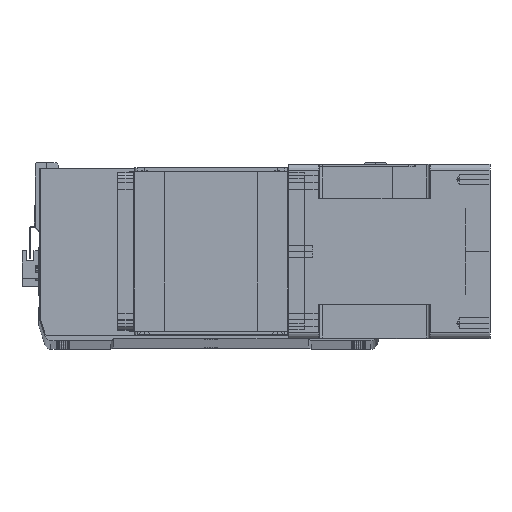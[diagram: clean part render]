
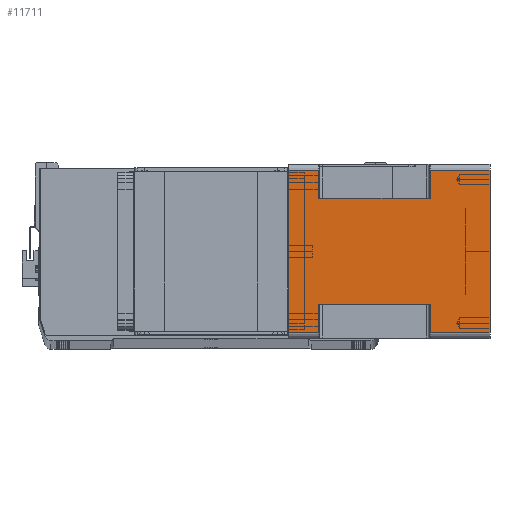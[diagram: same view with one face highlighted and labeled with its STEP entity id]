
A CAD part, top view. The second image highlights one B-rep face of the part: STEP entity #11711.
In plain terms, the highlighted planar face has unit normal (0, 0, 1) as drawn and (1, 0, 0) by its records, which use the part's own axes.
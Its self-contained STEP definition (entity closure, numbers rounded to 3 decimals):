
#114 = CARTESIAN_POINT ( 'NONE',  ( 71., 43., -164. ) ) ;
#539 = VERTEX_POINT ( 'NONE', #11807 ) ;
#571 = VERTEX_POINT ( 'NONE', #29224 ) ;
#647 = EDGE_CURVE ( 'NONE', #9792, #19888, #34318, .T. ) ;
#1096 = VERTEX_POINT ( 'NONE', #5576 ) ;
#1127 = CARTESIAN_POINT ( 'NONE',  ( 71., -66., -24.5 ) ) ;
#1374 = EDGE_LOOP ( 'NONE', ( #37512, #14645, #17155, #30512, #24405, #8902, #31427, #29846, #25782, #5997, #24375, #34801 ) ) ;
#2576 = DIRECTION ( 'NONE',  ( 0., 1., 0. ) ) ;
#2724 = EDGE_CURVE ( 'NONE', #21843, #19888, #8327, .T. ) ;
#2954 = CARTESIAN_POINT ( 'NONE',  ( 71., -66., 0. ) ) ;
#3001 = VERTEX_POINT ( 'NONE', #27244 ) ;
#3691 = DIRECTION ( 'NONE',  ( 0., 1., 0. ) ) ;
#3949 = LINE ( 'NONE', #25578, #7139 ) ;
#4170 = CARTESIAN_POINT ( 'NONE',  ( 71., 43., -115.5 ) ) ;
#4411 = VECTOR ( 'NONE', #29930, 1000. ) ;
#4463 = EDGE_CURVE ( 'NONE', #14562, #539, #6472, .T. ) ;
#5149 = DIRECTION ( 'NONE',  ( 0., 1., 0. ) ) ;
#5307 = CARTESIAN_POINT ( 'NONE',  ( 71., -66., -164. ) ) ;
#5576 = CARTESIAN_POINT ( 'NONE',  ( 71., 66., -164. ) ) ;
#5997 = ORIENTED_EDGE ( 'NONE', *, *, #2724, .F. ) ;
#6235 = CARTESIAN_POINT ( 'NONE',  ( 71., 66., -164. ) ) ;
#6472 = LINE ( 'NONE', #114, #25021 ) ;
#6610 = DIRECTION ( 'NONE',  ( 0., 0., 1. ) ) ;
#6718 = LINE ( 'NONE', #26196, #33371 ) ;
#6927 = VECTOR ( 'NONE', #8335, 1000. ) ;
#7139 = VECTOR ( 'NONE', #25206, 1000. ) ;
#7288 = CARTESIAN_POINT ( 'NONE',  ( 71., -66., -164. ) ) ;
#8327 = LINE ( 'NONE', #2954, #6927 ) ;
#8335 = DIRECTION ( 'NONE',  ( 0., 1., 0. ) ) ;
#8902 = ORIENTED_EDGE ( 'NONE', *, *, #20747, .T. ) ;
#9126 = CARTESIAN_POINT ( 'NONE',  ( 71., -66., -24.5 ) ) ;
#9792 = VERTEX_POINT ( 'NONE', #21438 ) ;
#10211 = DIRECTION ( 'NONE',  ( 0., 1., 0. ) ) ;
#11128 = VECTOR ( 'NONE', #5149, 1000. ) ;
#11150 = CARTESIAN_POINT ( 'NONE',  ( 71., -43., -164. ) ) ;
#11173 = LINE ( 'NONE', #19966, #31486 ) ;
#11215 = CARTESIAN_POINT ( 'NONE',  ( 71., -43., -24.5 ) ) ;
#11711 = ADVANCED_FACE ( 'NONE', ( #14572 ), #32890, .T. ) ;
#11807 = CARTESIAN_POINT ( 'NONE',  ( 71., 43., -115.5 ) ) ;
#12715 = CARTESIAN_POINT ( 'NONE',  ( 71., -66., 0. ) ) ;
#14562 = VERTEX_POINT ( 'NONE', #25508 ) ;
#14572 = FACE_OUTER_BOUND ( 'NONE', #1374, .T. ) ;
#14645 = ORIENTED_EDGE ( 'NONE', *, *, #29817, .T. ) ;
#15566 = CARTESIAN_POINT ( 'NONE',  ( 71., -66., -115.5 ) ) ;
#16181 = LINE ( 'NONE', #4170, #26580 ) ;
#16208 = DIRECTION ( 'NONE',  ( 0., -1., 0. ) ) ;
#16772 = CARTESIAN_POINT ( 'NONE',  ( 71., -66., -164. ) ) ;
#17155 = ORIENTED_EDGE ( 'NONE', *, *, #30130, .F. ) ;
#17665 = VERTEX_POINT ( 'NONE', #5307 ) ;
#18279 = VECTOR ( 'NONE', #28060, 1000. ) ;
#19818 = LINE ( 'NONE', #15566, #4411 ) ;
#19888 = VERTEX_POINT ( 'NONE', #22155 ) ;
#19966 = CARTESIAN_POINT ( 'NONE',  ( 71., -66., -164. ) ) ;
#20559 = VECTOR ( 'NONE', #2576, 1000. ) ;
#20747 = EDGE_CURVE ( 'NONE', #30634, #539, #16181, .T. ) ;
#21011 = CARTESIAN_POINT ( 'NONE',  ( 71., -43., -115.5 ) ) ;
#21111 = LINE ( 'NONE', #16772, #11128 ) ;
#21121 = VERTEX_POINT ( 'NONE', #9126 ) ;
#21438 = CARTESIAN_POINT ( 'NONE',  ( 71., 66., -24.5 ) ) ;
#21504 = EDGE_CURVE ( 'NONE', #17665, #1096, #21111, .T. ) ;
#21708 = VECTOR ( 'NONE', #3691, 1000. ) ;
#21843 = VERTEX_POINT ( 'NONE', #12715 ) ;
#22155 = CARTESIAN_POINT ( 'NONE',  ( 71., 66., 0. ) ) ;
#22618 = LINE ( 'NONE', #1127, #21708 ) ;
#22626 = AXIS2_PLACEMENT_3D ( 'NONE', #7288, #27495, #10211 ) ;
#22881 = DIRECTION ( 'NONE',  ( 0., 0., 1. ) ) ;
#23739 = LINE ( 'NONE', #11215, #20559 ) ;
#24317 = CARTESIAN_POINT ( 'NONE',  ( 71., 66., -115.5 ) ) ;
#24375 = ORIENTED_EDGE ( 'NONE', *, *, #33007, .F. ) ;
#24405 = ORIENTED_EDGE ( 'NONE', *, *, #29698, .T. ) ;
#25021 = VECTOR ( 'NONE', #34674, 1000. ) ;
#25206 = DIRECTION ( 'NONE',  ( 0., 0., 1. ) ) ;
#25508 = CARTESIAN_POINT ( 'NONE',  ( 71., 43., -24.5 ) ) ;
#25578 = CARTESIAN_POINT ( 'NONE',  ( 71., -66., -164. ) ) ;
#25746 = VECTOR ( 'NONE', #6610, 1000. ) ;
#25782 = ORIENTED_EDGE ( 'NONE', *, *, #647, .T. ) ;
#26196 = CARTESIAN_POINT ( 'NONE',  ( 71., 66., -164. ) ) ;
#26580 = VECTOR ( 'NONE', #16208, 1000. ) ;
#27244 = CARTESIAN_POINT ( 'NONE',  ( 71., -66., -115.5 ) ) ;
#27495 = DIRECTION ( 'NONE',  ( 1., 0., 0. ) ) ;
#28060 = DIRECTION ( 'NONE',  ( 0., 0., 1. ) ) ;
#29201 = DIRECTION ( 'NONE',  ( 0., 0., 1. ) ) ;
#29217 = EDGE_CURVE ( 'NONE', #14562, #9792, #22618, .T. ) ;
#29224 = CARTESIAN_POINT ( 'NONE',  ( 71., -43., -24.5 ) ) ;
#29594 = LINE ( 'NONE', #11150, #18279 ) ;
#29698 = EDGE_CURVE ( 'NONE', #1096, #30634, #6718, .T. ) ;
#29817 = EDGE_CURVE ( 'NONE', #30424, #3001, #19818, .T. ) ;
#29846 = ORIENTED_EDGE ( 'NONE', *, *, #29217, .T. ) ;
#29930 = DIRECTION ( 'NONE',  ( 0., -1., 0. ) ) ;
#30130 = EDGE_CURVE ( 'NONE', #17665, #3001, #11173, .T. ) ;
#30424 = VERTEX_POINT ( 'NONE', #21011 ) ;
#30512 = ORIENTED_EDGE ( 'NONE', *, *, #21504, .T. ) ;
#30634 = VERTEX_POINT ( 'NONE', #24317 ) ;
#31427 = ORIENTED_EDGE ( 'NONE', *, *, #4463, .F. ) ;
#31486 = VECTOR ( 'NONE', #22881, 1000. ) ;
#32890 = PLANE ( 'NONE',  #22626 ) ;
#33007 = EDGE_CURVE ( 'NONE', #21121, #21843, #3949, .T. ) ;
#33371 = VECTOR ( 'NONE', #29201, 1000. ) ;
#34318 = LINE ( 'NONE', #6235, #25746 ) ;
#34455 = EDGE_CURVE ( 'NONE', #30424, #571, #29594, .T. ) ;
#34674 = DIRECTION ( 'NONE',  ( 0., 0., -1. ) ) ;
#34801 = ORIENTED_EDGE ( 'NONE', *, *, #37198, .T. ) ;
#37198 = EDGE_CURVE ( 'NONE', #21121, #571, #23739, .T. ) ;
#37512 = ORIENTED_EDGE ( 'NONE', *, *, #34455, .F. ) ;
